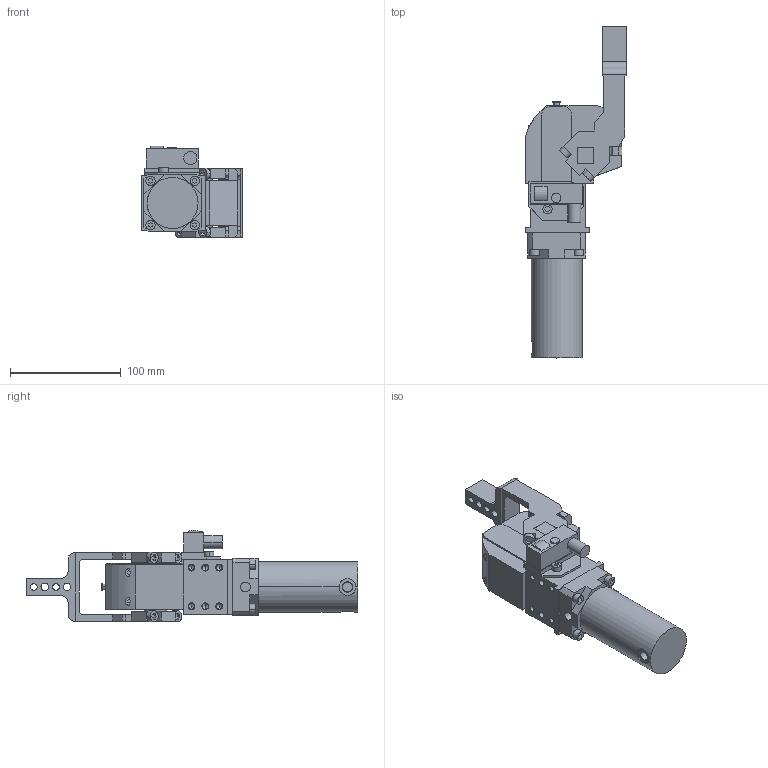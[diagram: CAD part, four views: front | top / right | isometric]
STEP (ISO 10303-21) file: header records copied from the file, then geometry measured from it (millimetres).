
FILE_DESCRIPTION (( 'STEP AP214' ), '1' );
FILE_NAME ('g40.1_go.STEP', '2014-03-17T09:49:00', ( 'vep' ), ( 'TOSHIBA' ), 'SwSTEP 2.0', 'SolidWorks 2013', '' );
FILE_SCHEMA (( 'AUTOMOTIVE_DESIGN' ));
Length unit declared in the file: millimetre
Products named in the file (5): blocchetto_p&f_90; g40.1_cilindro; g40.1_corpo; g40.1_go; g40.1_leva_gv
Assembly tree (4 placements, depth 2):
  g40.1_go
    g40.1_corpo
    g40.1_cilindro
    blocchetto_p&f_90
    g40.1_leva_gv
Bounding box: 91 x 300 x 82.8 mm (x, y, z)
Volume: 611610 mm3; surface area: 96387.8 mm2
Topology: 4 solids, 4 shells, 456 faces, 1168 edges, 727 vertices
Faces by surface type: plane 299, cylinder 105, cone 52
Entity records: 14822 total; most frequent: CARTESIAN_POINT 2568, DIRECTION 2348, ORIENTED_EDGE 2288, EDGE_CURVE 1144, LINE 842, VECTOR 842, AXIS2_PLACEMENT_3D 753, VERTEX_POINT 727
